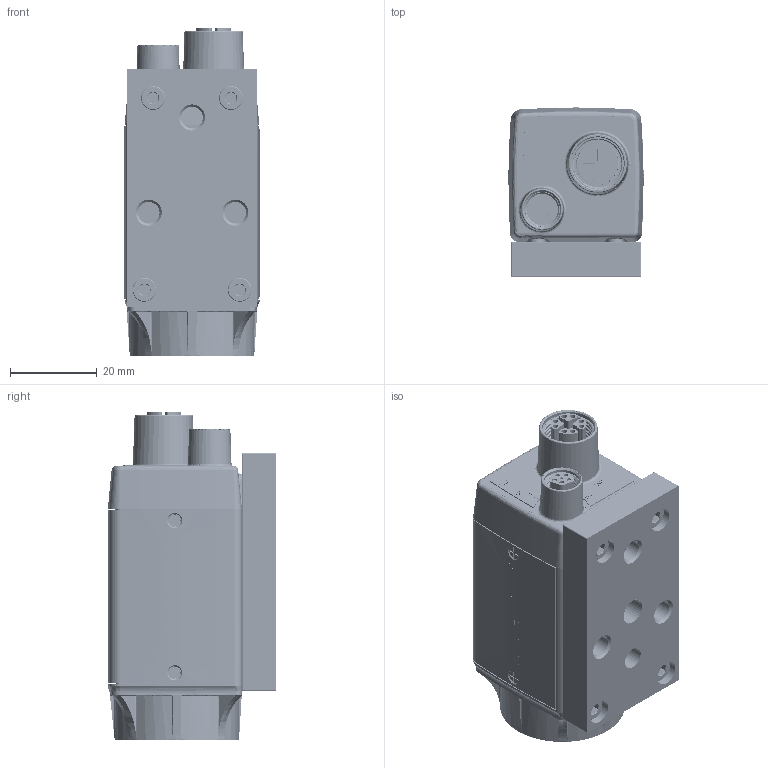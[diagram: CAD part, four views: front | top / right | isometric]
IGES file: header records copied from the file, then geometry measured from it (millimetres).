
Start section: SolidWorks IGES file using analytic representation for surfaces
Global section: file name: D:\ISM-2G Project\Working Folder\IS010-07_11-9-15.IGS; native system: SolidWorks 2014; preprocessor: SolidWorks 2014; author: ddawkins; date: 151110.104346; units: millimetre
Bounding box: 31.22 x 39 x 75.83 mm (x, y, z)
Surface area: 33794.6 mm2 (no closed solid volume)
Topology: 0 solids, 0 shells, 3975 faces, 42575 edges, 42405 vertices
Faces by surface type: bspline 2045, revolution 1930
